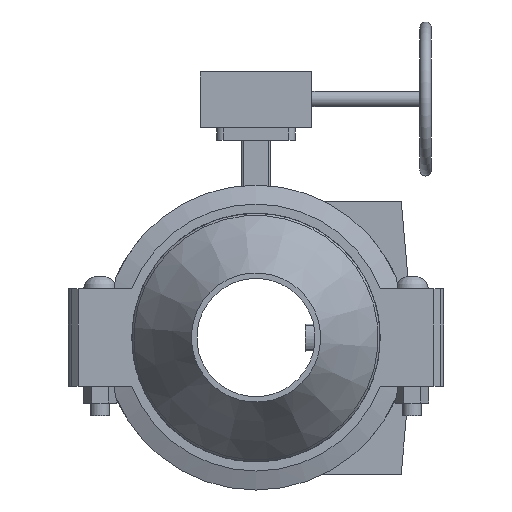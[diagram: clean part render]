
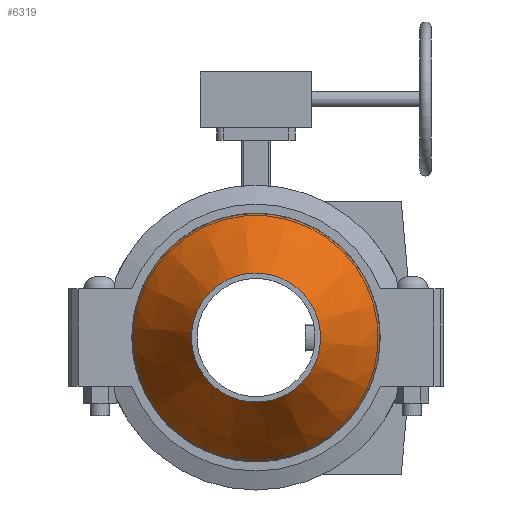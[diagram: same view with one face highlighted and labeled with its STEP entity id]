
A CAD part, front view. The second image highlights one B-rep face of the part: STEP entity #6319.
In plain terms, the highlighted conical face has half-angle 33.155 degrees and reference radius 123.031 mm.
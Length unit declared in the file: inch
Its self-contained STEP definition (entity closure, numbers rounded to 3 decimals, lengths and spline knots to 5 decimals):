
#150=CONICAL_SURFACE('',#6885,4.84375,0.579);
#165=LINE('',#9613,#630);
#630=VECTOR('',#7663,4.84375);
#1283=FACE_OUTER_BOUND('',#1639,.T.);
#1639=EDGE_LOOP('',(#3966,#3967,#3968,#3969,#3970,#3971));
#2069=CIRCLE('',#6883,6.375);
#2070=CIRCLE('',#6884,6.375);
#2071=CIRCLE('',#6886,3.3125);
#2072=CIRCLE('',#6887,3.3125);
#2435=VERTEX_POINT('',#9603);
#2436=VERTEX_POINT('',#9604);
#2437=VERTEX_POINT('',#9609);
#2438=VERTEX_POINT('',#9610);
#3051=EDGE_CURVE('',#2435,#2436,#2069,.T.);
#3052=EDGE_CURVE('',#2436,#2435,#2070,.T.);
#3054=EDGE_CURVE('',#2437,#2438,#2071,.T.);
#3055=EDGE_CURVE('',#2438,#2437,#2072,.T.);
#3056=EDGE_CURVE('',#2438,#2436,#165,.T.);
#3966=ORIENTED_EDGE('',*,*,#3054,.F.);
#3967=ORIENTED_EDGE('',*,*,#3055,.F.);
#3968=ORIENTED_EDGE('',*,*,#3056,.T.);
#3969=ORIENTED_EDGE('',*,*,#3052,.T.);
#3970=ORIENTED_EDGE('',*,*,#3051,.T.);
#3971=ORIENTED_EDGE('',*,*,#3056,.F.);
#6319=ADVANCED_FACE('',(#1283),#150,.T.);
#6883=AXIS2_PLACEMENT_3D('',#9605,#7652,#7653);
#6884=AXIS2_PLACEMENT_3D('',#9606,#7654,#7655);
#6885=AXIS2_PLACEMENT_3D('',#9608,#7657,#7658);
#6886=AXIS2_PLACEMENT_3D('',#9611,#7659,#7660);
#6887=AXIS2_PLACEMENT_3D('',#9612,#7661,#7662);
#7652=DIRECTION('center_axis',(1.,0.,0.));
#7653=DIRECTION('ref_axis',(0.,1.,0.));
#7654=DIRECTION('center_axis',(1.,0.,0.));
#7655=DIRECTION('ref_axis',(0.,1.,0.));
#7657=DIRECTION('center_axis',(-1.,0.,0.));
#7658=DIRECTION('ref_axis',(0.,1.,0.));
#7659=DIRECTION('center_axis',(1.,0.,0.));
#7660=DIRECTION('ref_axis',(0.,1.,0.));
#7661=DIRECTION('center_axis',(1.,0.,0.));
#7662=DIRECTION('ref_axis',(0.,1.,0.));
#7663=DIRECTION('',(-0.837,-0.547,0.));
#9603=CARTESIAN_POINT('',(1.281,6.375,0.));
#9604=CARTESIAN_POINT('',(1.281,-6.375,0.));
#9605=CARTESIAN_POINT('Origin',(1.281,0.,0.));
#9606=CARTESIAN_POINT('Origin',(1.281,0.,0.));
#9608=CARTESIAN_POINT('Origin',(3.625,0.,0.));
#9609=CARTESIAN_POINT('',(5.969,3.3125,0.));
#9610=CARTESIAN_POINT('',(5.969,-3.3125,0.));
#9611=CARTESIAN_POINT('Origin',(5.969,0.,0.));
#9612=CARTESIAN_POINT('Origin',(5.969,0.,0.));
#9613=CARTESIAN_POINT('',(3.625,-4.84375,0.));
